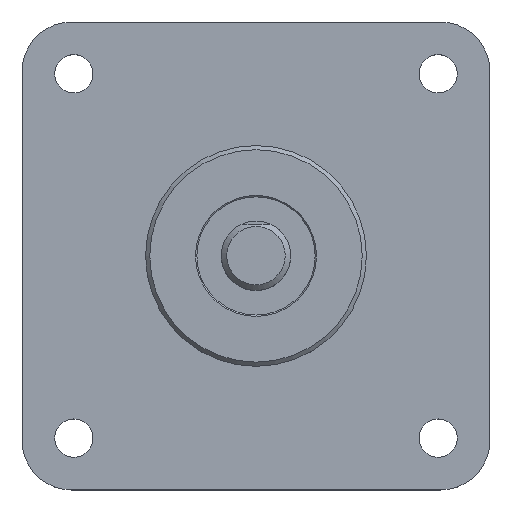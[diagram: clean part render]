
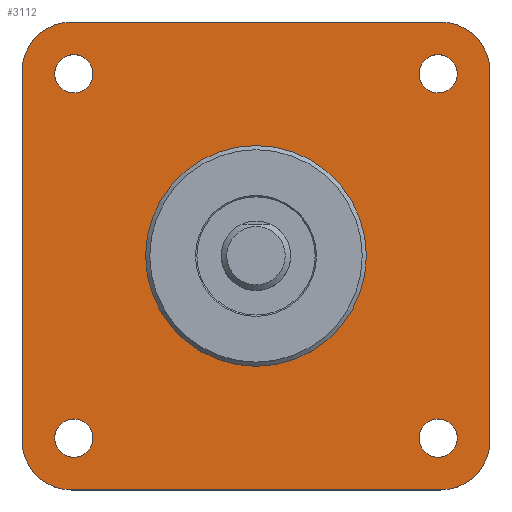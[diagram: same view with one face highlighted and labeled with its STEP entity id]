
A CAD part, top view. The second image highlights one B-rep face of the part: STEP entity #3112.
In plain terms, the highlighted planar face has unit normal (0, 0, 1).
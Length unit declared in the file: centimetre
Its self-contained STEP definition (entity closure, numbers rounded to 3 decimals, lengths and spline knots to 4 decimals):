
#162=VECTOR('',#5016,1.);
#163=VECTOR('',#5019,1.);
#164=VECTOR('',#5022,1.);
#165=VECTOR('',#5025,1.);
#274=LINE('',#3952,#162);
#275=LINE('',#3957,#163);
#276=LINE('',#3961,#164);
#277=LINE('',#3965,#165);
#497=PLANE('',#3402);
#617=VERTEX_POINT('',#3943);
#618=VERTEX_POINT('',#3945);
#619=VERTEX_POINT('',#3947);
#620=VERTEX_POINT('',#3949);
#621=VERTEX_POINT('',#3951);
#622=VERTEX_POINT('',#3953);
#623=VERTEX_POINT('',#3954);
#624=VERTEX_POINT('',#3956);
#625=VERTEX_POINT('',#3958);
#626=VERTEX_POINT('',#3960);
#627=VERTEX_POINT('',#3962);
#628=VERTEX_POINT('',#3964);
#629=VERTEX_POINT('',#3966);
#918=CIRCLE('',#3403,1.5875);
#919=CIRCLE('',#3404,0.275);
#920=CIRCLE('',#3405,0.275);
#921=CIRCLE('',#3406,0.275);
#922=CIRCLE('',#3407,0.275);
#923=CIRCLE('',#3408,0.71);
#924=CIRCLE('',#3409,0.71);
#925=CIRCLE('',#3410,0.71);
#926=CIRCLE('',#3411,0.71);
#1160=EDGE_CURVE('',#617,#617,#918,.T.);
#1161=EDGE_CURVE('',#618,#618,#919,.T.);
#1162=EDGE_CURVE('',#619,#619,#920,.T.);
#1163=EDGE_CURVE('',#620,#620,#921,.T.);
#1164=EDGE_CURVE('',#621,#621,#922,.T.);
#1165=EDGE_CURVE('',#622,#623,#274,.T.);
#1166=EDGE_CURVE('',#623,#624,#923,.T.);
#1167=EDGE_CURVE('',#624,#625,#275,.T.);
#1168=EDGE_CURVE('',#625,#626,#924,.T.);
#1169=EDGE_CURVE('',#626,#627,#276,.T.);
#1170=EDGE_CURVE('',#627,#628,#925,.T.);
#1171=EDGE_CURVE('',#628,#629,#277,.T.);
#1172=EDGE_CURVE('',#629,#622,#926,.T.);
#1540=ORIENTED_EDGE('',*,*,#1160,.T.);
#1541=ORIENTED_EDGE('',*,*,#1161,.F.);
#1542=ORIENTED_EDGE('',*,*,#1162,.F.);
#1543=ORIENTED_EDGE('',*,*,#1163,.F.);
#1544=ORIENTED_EDGE('',*,*,#1164,.F.);
#1545=ORIENTED_EDGE('',*,*,#1165,.T.);
#1546=ORIENTED_EDGE('',*,*,#1166,.T.);
#1547=ORIENTED_EDGE('',*,*,#1167,.T.);
#1548=ORIENTED_EDGE('',*,*,#1168,.T.);
#1549=ORIENTED_EDGE('',*,*,#1169,.T.);
#1550=ORIENTED_EDGE('',*,*,#1170,.T.);
#1551=ORIENTED_EDGE('',*,*,#1171,.T.);
#1552=ORIENTED_EDGE('',*,*,#1172,.T.);
#2280=EDGE_LOOP('',(#1540));
#2281=EDGE_LOOP('',(#1541));
#2282=EDGE_LOOP('',(#1542));
#2283=EDGE_LOOP('',(#1543));
#2284=EDGE_LOOP('',(#1544));
#2285=EDGE_LOOP('',(#1545,#1546,#1547,#1548,#1549,#1550,#1551,#1552));
#2701=FACE_BOUND('',#2280,.T.);
#2702=FACE_BOUND('',#2281,.T.);
#2703=FACE_BOUND('',#2282,.T.);
#2704=FACE_BOUND('',#2283,.T.);
#2705=FACE_BOUND('',#2284,.T.);
#2706=FACE_BOUND('',#2285,.T.);
#3112=ADVANCED_FACE('',(#2701,#2702,#2703,#2704,#2705,#2706),#497,.T.);
#3402=AXIS2_PLACEMENT_3D('',#3941,#5005,$);
#3403=AXIS2_PLACEMENT_3D('',#3942,#5006,#5007);
#3404=AXIS2_PLACEMENT_3D('',#3944,#5008,#5009);
#3405=AXIS2_PLACEMENT_3D('',#3946,#5010,#5011);
#3406=AXIS2_PLACEMENT_3D('',#3948,#5012,#5013);
#3407=AXIS2_PLACEMENT_3D('',#3950,#5014,#5015);
#3408=AXIS2_PLACEMENT_3D('',#3955,#5017,#5018);
#3409=AXIS2_PLACEMENT_3D('',#3959,#5020,#5021);
#3410=AXIS2_PLACEMENT_3D('',#3963,#5023,#5024);
#3411=AXIS2_PLACEMENT_3D('',#3967,#5026,#5027);
#3941=CARTESIAN_POINT('',(0.,0.,
0.));
#3942=CARTESIAN_POINT('',(0.,0.,0.));
#3943=CARTESIAN_POINT('',(1.5875,0.,0.));
#3944=CARTESIAN_POINT('',(2.62,-2.62,0.));
#3945=CARTESIAN_POINT('',(2.895,-2.62,0.));
#3946=CARTESIAN_POINT('',(2.62,2.62,0.));
#3947=CARTESIAN_POINT('',(2.895,2.62,0.));
#3948=CARTESIAN_POINT('',(-2.62,2.62,0.));
#3949=CARTESIAN_POINT('',(-2.345,2.62,0.));
#3950=CARTESIAN_POINT('',(-2.62,-2.62,0.));
#3951=CARTESIAN_POINT('',(-2.345,-2.62,0.));
#3952=CARTESIAN_POINT('',(-3.3655,2.6555,0.));
#3953=CARTESIAN_POINT('',(-3.3655,2.6555,0.));
#3954=CARTESIAN_POINT('',(-3.3655,-2.6555,0.));
#3955=CARTESIAN_POINT('',(-2.6555,-2.6555,0.));
#3956=CARTESIAN_POINT('',(-2.6555,-3.3655,0.));
#3957=CARTESIAN_POINT('',(-2.6555,-3.3655,0.));
#3958=CARTESIAN_POINT('',(2.6555,-3.3655,0.));
#3959=CARTESIAN_POINT('',(2.6555,-2.6555,0.));
#3960=CARTESIAN_POINT('',(3.3655,-2.6555,0.));
#3961=CARTESIAN_POINT('',(3.3655,-2.6555,0.));
#3962=CARTESIAN_POINT('',(3.3655,2.6555,0.));
#3963=CARTESIAN_POINT('',(2.6555,2.6555,0.));
#3964=CARTESIAN_POINT('',(2.6555,3.3655,0.));
#3965=CARTESIAN_POINT('',(2.6555,3.3655,0.));
#3966=CARTESIAN_POINT('',(-2.6555,3.3655,0.));
#3967=CARTESIAN_POINT('',(-2.6555,2.6555,0.));
#5005=DIRECTION('',(0.,0.,1.));
#5006=DIRECTION('',(0.,0.,-1.));
#5007=DIRECTION('',(1.588,0.,0.));
#5008=DIRECTION('',(0.,0.,1.));
#5009=DIRECTION('',(0.275,0.,0.));
#5010=DIRECTION('',(0.,0.,1.));
#5011=DIRECTION('',(0.275,0.,0.));
#5012=DIRECTION('',(0.,0.,1.));
#5013=DIRECTION('',(0.275,0.,0.));
#5014=DIRECTION('',(0.,0.,1.));
#5015=DIRECTION('',(0.275,0.,0.));
#5016=DIRECTION('',(0.,-1.,0.));
#5017=DIRECTION('',(0.,0.,1.));
#5018=DIRECTION('',(0.71,0.,0.));
#5019=DIRECTION('',(1.,0.,0.));
#5020=DIRECTION('',(0.,0.,1.));
#5021=DIRECTION('',(0.71,0.,0.));
#5022=DIRECTION('',(0.,1.,0.));
#5023=DIRECTION('',(0.,0.,1.));
#5024=DIRECTION('',(0.71,0.,0.));
#5025=DIRECTION('',(-1.,0.,0.));
#5026=DIRECTION('',(0.,0.,1.));
#5027=DIRECTION('',(0.71,0.,0.));
